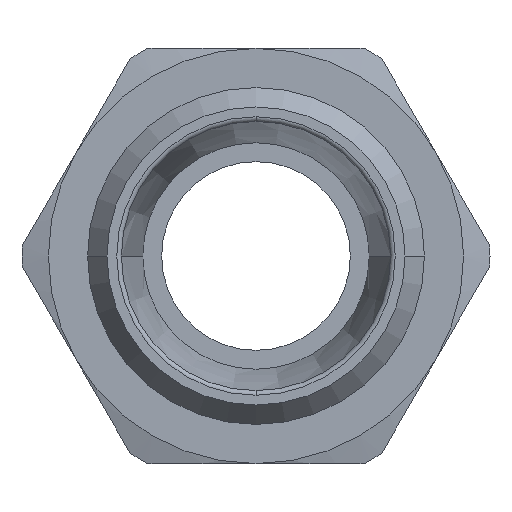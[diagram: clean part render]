
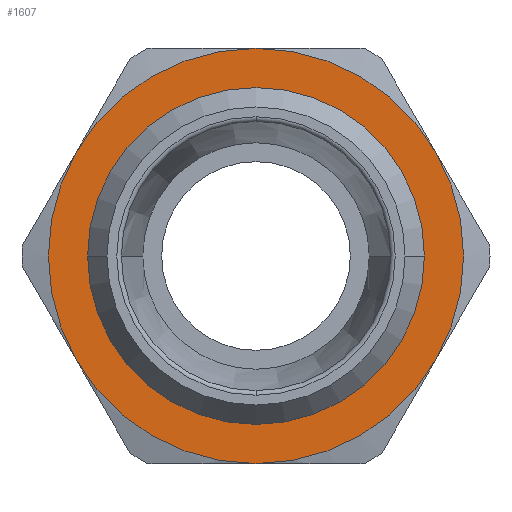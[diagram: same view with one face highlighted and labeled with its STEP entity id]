
A CAD part, left-side view. The second image highlights one B-rep face of the part: STEP entity #1607.
In plain terms, the highlighted planar face has unit normal (-1, 0, 0) as drawn and (0, 0, 1) by its records, which use the part's own axes.
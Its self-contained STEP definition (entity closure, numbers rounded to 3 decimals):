
#715=CARTESIAN_POINT('',(-8.8,0.,3.2));
#716=VERTEX_POINT('',#715);
#742=CARTESIAN_POINT('',(8.8,0.,3.2));
#743=VERTEX_POINT('',#742);
#751=CARTESIAN_POINT('',(0.,0.0,3.2));
#752=DIRECTION('',(0.0,0.0,1.0));
#753=DIRECTION('',(-1.0,0.0,0.0));
#754=AXIS2_PLACEMENT_3D('',#751,#752,#753);
#755=CIRCLE('',#754,8.8);
#756=EDGE_CURVE('',#743,#716,#755,.T.);
#1487=CARTESIAN_POINT('',(0.,-8.8,3.2));
#1488=VERTEX_POINT('',#1487);
#1489=CARTESIAN_POINT('',(0.,0.0,3.2));
#1490=DIRECTION('',(0.0,0.0,1.0));
#1491=DIRECTION('',(-1.0,0.0,0.0));
#1492=AXIS2_PLACEMENT_3D('',#1489,#1490,#1491);
#1493=CIRCLE('',#1492,8.8);
#1494=EDGE_CURVE('',#716,#1488,#1493,.T.);
#1496=CARTESIAN_POINT('',(0.,0.0,3.2));
#1497=DIRECTION('',(0.0,0.0,1.0));
#1498=DIRECTION('',(-1.0,0.0,0.0));
#1499=AXIS2_PLACEMENT_3D('',#1496,#1497,#1498);
#1500=CIRCLE('',#1499,8.8);
#1501=EDGE_CURVE('',#1488,#743,#1500,.T.);
#1541=CARTESIAN_POINT('',(0.0,0.,3.2));
#1542=DIRECTION('',(0.0,0.0,1.0));
#1543=DIRECTION('',(1.0,0.0,0.0));
#1544=AXIS2_PLACEMENT_3D('',#1541,#1542,#1543);
#1545=PLANE('',#1544);
#1546=CARTESIAN_POINT('',(5.5,-9.526,3.2));
#1547=VERTEX_POINT('',#1546);
#1548=CARTESIAN_POINT('',(11.,0.0,3.2));
#1549=VERTEX_POINT('',#1548);
#1550=CARTESIAN_POINT('',(0.,0.0,3.2));
#1551=DIRECTION('',(0.0,0.0,1.0));
#1552=DIRECTION('',(1.0,0.0,0.0));
#1553=AXIS2_PLACEMENT_3D('',#1550,#1551,#1552);
#1554=CIRCLE('',#1553,11.);
#1555=EDGE_CURVE('',#1547,#1549,#1554,.T.);
#1556=ORIENTED_EDGE('',*,*,#1555,.T.);
#1557=CARTESIAN_POINT('',(5.5,9.526,3.2));
#1558=VERTEX_POINT('',#1557);
#1559=CARTESIAN_POINT('',(0.,0.0,3.2));
#1560=DIRECTION('',(0.0,0.0,1.0));
#1561=DIRECTION('',(1.0,0.0,0.0));
#1562=AXIS2_PLACEMENT_3D('',#1559,#1560,#1561);
#1563=CIRCLE('',#1562,11.);
#1564=EDGE_CURVE('',#1549,#1558,#1563,.T.);
#1565=ORIENTED_EDGE('',*,*,#1564,.T.);
#1566=CARTESIAN_POINT('',(-5.5,9.526,3.2));
#1567=VERTEX_POINT('',#1566);
#1568=CARTESIAN_POINT('',(0.,0.0,3.2));
#1569=DIRECTION('',(0.0,0.0,1.0));
#1570=DIRECTION('',(1.0,0.0,0.0));
#1571=AXIS2_PLACEMENT_3D('',#1568,#1569,#1570);
#1572=CIRCLE('',#1571,11.);
#1573=EDGE_CURVE('',#1558,#1567,#1572,.T.);
#1574=ORIENTED_EDGE('',*,*,#1573,.T.);
#1575=CARTESIAN_POINT('',(-11.0,0.,3.2));
#1576=VERTEX_POINT('',#1575);
#1577=CARTESIAN_POINT('',(0.,0.0,3.2));
#1578=DIRECTION('',(0.0,0.0,1.0));
#1579=DIRECTION('',(1.0,0.0,0.0));
#1580=AXIS2_PLACEMENT_3D('',#1577,#1578,#1579);
#1581=CIRCLE('',#1580,11.);
#1582=EDGE_CURVE('',#1567,#1576,#1581,.T.);
#1583=ORIENTED_EDGE('',*,*,#1582,.T.);
#1584=CARTESIAN_POINT('',(-5.5,-9.526,3.2));
#1585=VERTEX_POINT('',#1584);
#1586=CARTESIAN_POINT('',(0.,0.0,3.2));
#1587=DIRECTION('',(0.0,0.0,1.0));
#1588=DIRECTION('',(1.0,0.0,0.0));
#1589=AXIS2_PLACEMENT_3D('',#1586,#1587,#1588);
#1590=CIRCLE('',#1589,11.);
#1591=EDGE_CURVE('',#1576,#1585,#1590,.T.);
#1592=ORIENTED_EDGE('',*,*,#1591,.T.);
#1593=CARTESIAN_POINT('',(0.,0.0,3.2));
#1594=DIRECTION('',(0.0,0.0,1.0));
#1595=DIRECTION('',(1.0,0.0,0.0));
#1596=AXIS2_PLACEMENT_3D('',#1593,#1594,#1595);
#1597=CIRCLE('',#1596,11.);
#1598=EDGE_CURVE('',#1585,#1547,#1597,.T.);
#1599=ORIENTED_EDGE('',*,*,#1598,.T.);
#1600=EDGE_LOOP('',(#1556,#1565,#1574,#1583,#1592,#1599));
#1601=FACE_OUTER_BOUND('',#1600,.T.);
#1602=ORIENTED_EDGE('',*,*,#1501,.F.);
#1603=ORIENTED_EDGE('',*,*,#1494,.F.);
#1604=ORIENTED_EDGE('',*,*,#756,.F.);
#1605=EDGE_LOOP('',(#1602,#1603,#1604));
#1606=FACE_BOUND('',#1605,.T.);
#1607=ADVANCED_FACE('',(#1601,#1606),#1545,.T.);
